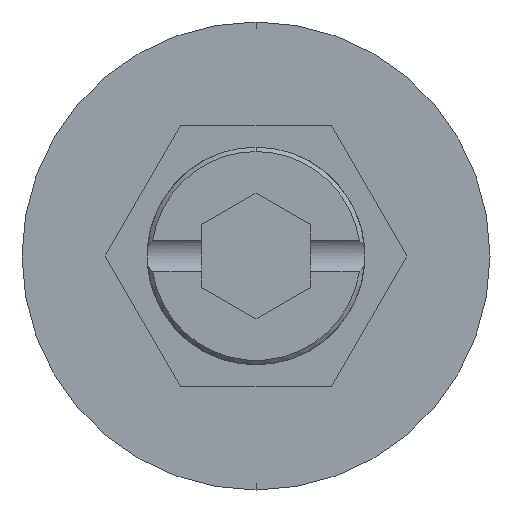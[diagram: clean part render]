
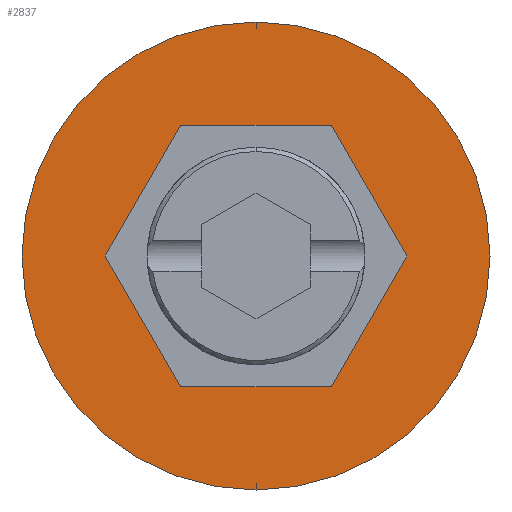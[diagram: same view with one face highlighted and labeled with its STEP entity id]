
A CAD part, front view. The second image highlights one B-rep face of the part: STEP entity #2837.
In plain terms, the highlighted planar face has unit normal (0, -1, 0).
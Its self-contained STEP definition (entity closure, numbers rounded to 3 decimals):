
#14 = CARTESIAN_POINT ( 'NONE',  ( 0., 0., 0. ) ) ;
#20 = EDGE_CURVE ( 'NONE', #2304, #2244, #2712, .T. ) ;
#73 = ORIENTED_EDGE ( 'NONE', *, *, #3118, .F. ) ;
#99 = LINE ( 'NONE', #2265, #656 ) ;
#227 = DIRECTION ( 'NONE',  ( 0., -1., 0. ) ) ;
#266 = DIRECTION ( 'NONE',  ( 0., -1., 0. ) ) ;
#323 = DIRECTION ( 'NONE',  ( -0.5, 0., -0.866 ) ) ;
#375 = LINE ( 'NONE', #1795, #1704 ) ;
#488 = CARTESIAN_POINT ( 'NONE',  ( -6.928, 0., 0. ) ) ;
#514 = ORIENTED_EDGE ( 'NONE', *, *, #1547, .F. ) ;
#530 = CARTESIAN_POINT ( 'NONE',  ( 0., 0., -10.75 ) ) ;
#547 = CARTESIAN_POINT ( 'NONE',  ( -3.464, 0., 6. ) ) ;
#656 = VECTOR ( 'NONE', #2512, 1000. ) ;
#677 = CARTESIAN_POINT ( 'NONE',  ( 0., 0., 0. ) ) ;
#820 = CARTESIAN_POINT ( 'NONE',  ( 3.464, 0., -6. ) ) ;
#830 = CARTESIAN_POINT ( 'NONE',  ( 3.464, 0., 6. ) ) ;
#945 = VECTOR ( 'NONE', #1403, 1000. ) ;
#973 = CARTESIAN_POINT ( 'NONE',  ( 3.464, 0., -6. ) ) ;
#1052 = EDGE_LOOP ( 'NONE', ( #1545, #1780, #3085, #73, #514, #1763 ) ) ;
#1066 = DIRECTION ( 'NONE',  ( 0.5, 0., 0.866 ) ) ;
#1091 = VERTEX_POINT ( 'NONE', #830 ) ;
#1133 = VERTEX_POINT ( 'NONE', #488 ) ;
#1135 = VECTOR ( 'NONE', #323, 1000. ) ;
#1146 = ORIENTED_EDGE ( 'NONE', *, *, #1858, .T. ) ;
#1155 = VERTEX_POINT ( 'NONE', #530 ) ;
#1262 = FACE_OUTER_BOUND ( 'NONE', #2953, .T. ) ;
#1266 = EDGE_CURVE ( 'NONE', #1155, #2042, #1662, .T. ) ;
#1334 = LINE ( 'NONE', #2785, #2659 ) ;
#1403 = DIRECTION ( 'NONE',  ( -0.5, 0., 0.866 ) ) ;
#1439 = DIRECTION ( 'NONE',  ( 0., 0., -1. ) ) ;
#1501 = DIRECTION ( 'NONE',  ( 0., 0., -1. ) ) ;
#1518 = EDGE_CURVE ( 'NONE', #1133, #3120, #375, .T. ) ;
#1528 = CARTESIAN_POINT ( 'NONE',  ( -3.464, 0., -6. ) ) ;
#1545 = ORIENTED_EDGE ( 'NONE', *, *, #3093, .F. ) ;
#1547 = EDGE_CURVE ( 'NONE', #2244, #1091, #1624, .T. ) ;
#1576 = DIRECTION ( 'NONE',  ( 0., 0., -1. ) ) ;
#1624 = LINE ( 'NONE', #2290, #945 ) ;
#1661 = CIRCLE ( 'NONE', #1721, 10.75 ) ;
#1662 = CIRCLE ( 'NONE', #1724, 10.75 ) ;
#1704 = VECTOR ( 'NONE', #1715, 1000. ) ;
#1715 = DIRECTION ( 'NONE',  ( 0.5, 0., -0.866 ) ) ;
#1721 = AXIS2_PLACEMENT_3D ( 'NONE', #14, #266, #1501 ) ;
#1724 = AXIS2_PLACEMENT_3D ( 'NONE', #1815, #227, #1576 ) ;
#1763 = ORIENTED_EDGE ( 'NONE', *, *, #20, .F. ) ;
#1780 = ORIENTED_EDGE ( 'NONE', *, *, #1518, .F. ) ;
#1786 = EDGE_CURVE ( 'NONE', #2933, #1133, #2488, .T. ) ;
#1795 = CARTESIAN_POINT ( 'NONE',  ( -6.928, 0., 0. ) ) ;
#1800 = ORIENTED_EDGE ( 'NONE', *, *, #1266, .T. ) ;
#1815 = CARTESIAN_POINT ( 'NONE',  ( 0., 0., 0. ) ) ;
#1858 = EDGE_CURVE ( 'NONE', #2042, #1155, #1661, .T. ) ;
#1927 = PLANE ( 'NONE',  #2394 ) ;
#2023 = FACE_BOUND ( 'NONE', #1052, .T. ) ;
#2042 = VERTEX_POINT ( 'NONE', #2633 ) ;
#2061 = VECTOR ( 'NONE', #1066, 1000. ) ;
#2221 = CARTESIAN_POINT ( 'NONE',  ( 6.928, 0., 0. ) ) ;
#2244 = VERTEX_POINT ( 'NONE', #2221 ) ;
#2265 = CARTESIAN_POINT ( 'NONE',  ( -3.464, 0., -6. ) ) ;
#2275 = DIRECTION ( 'NONE',  ( -1., 0., 0. ) ) ;
#2290 = CARTESIAN_POINT ( 'NONE',  ( 6.928, 0., 0. ) ) ;
#2304 = VERTEX_POINT ( 'NONE', #973 ) ;
#2394 = AXIS2_PLACEMENT_3D ( 'NONE', #677, #2934, #1439 ) ;
#2461 = CARTESIAN_POINT ( 'NONE',  ( -3.464, 0., 6. ) ) ;
#2488 = LINE ( 'NONE', #547, #1135 ) ;
#2512 = DIRECTION ( 'NONE',  ( 1., 0., 0. ) ) ;
#2633 = CARTESIAN_POINT ( 'NONE',  ( 0., 0., 10.75 ) ) ;
#2659 = VECTOR ( 'NONE', #2275, 1000. ) ;
#2712 = LINE ( 'NONE', #820, #2061 ) ;
#2785 = CARTESIAN_POINT ( 'NONE',  ( 3.464, 0., 6. ) ) ;
#2837 = ADVANCED_FACE ( 'NONE', ( #2023, #1262 ), #1927, .T. ) ;
#2933 = VERTEX_POINT ( 'NONE', #2461 ) ;
#2934 = DIRECTION ( 'NONE',  ( 0., -1., 0. ) ) ;
#2953 = EDGE_LOOP ( 'NONE', ( #1800, #1146 ) ) ;
#3085 = ORIENTED_EDGE ( 'NONE', *, *, #1786, .F. ) ;
#3093 = EDGE_CURVE ( 'NONE', #3120, #2304, #99, .T. ) ;
#3118 = EDGE_CURVE ( 'NONE', #1091, #2933, #1334, .T. ) ;
#3120 = VERTEX_POINT ( 'NONE', #1528 ) ;
